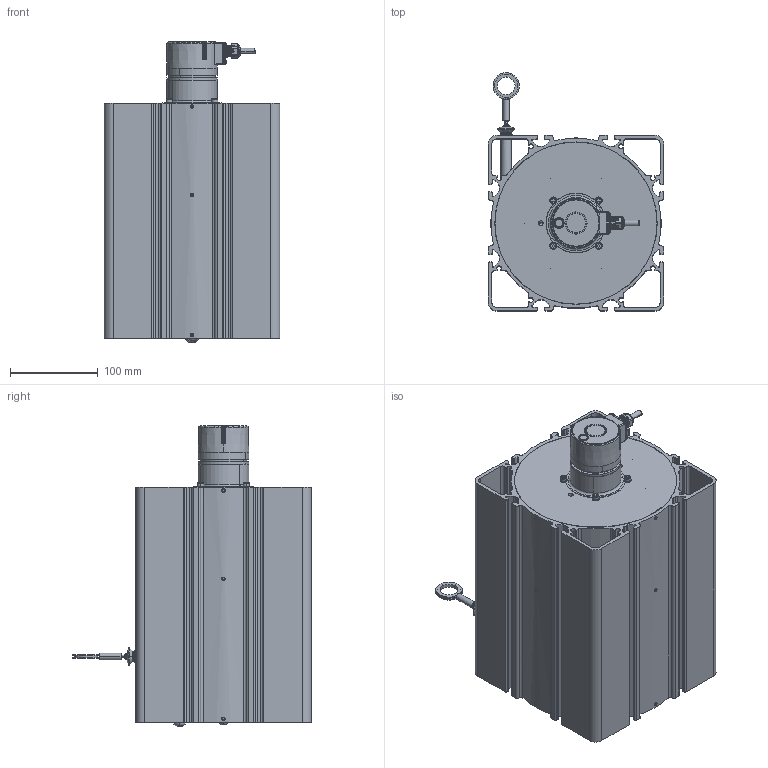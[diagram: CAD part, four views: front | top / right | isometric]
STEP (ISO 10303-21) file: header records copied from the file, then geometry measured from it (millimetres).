
FILE_DESCRIPTION((''),'2;1');
FILE_NAME('WDS-30000-P200-CR-TTL_02_ASM','2024-05-28T14:27:20',('15000597'),(''),'CREO PARAMETRIC BY PTC INC, 2022164','CREO PARAMETRIC BY PTC INC, 2022164','');
FILE_SCHEMA(('AUTOMOTIVE_DESIGN { 1 0 10303 214 1 1 1 1 }'));
Products named in the file (44): TELESO_SENZORU_30M_P200_AF0; HRIDEL_MOTORU_30-40M_P200_AF0; BOCNICE_VNEJSI_P200_AF0; LOZISKO_6000_10X26X8_AF1; PREDNI_STENA_P200_DIRA_S_POJIST_AF0; SROUB_ISO7380_COC_HEX_C_M5X10_AF0; TRUBKA_PRUCHODKY_P200_AF0; PRUCHODKA_P200; GUMOVY_VLNOVEC; STIRATKO_LANKO_FORMA_0I8; DUTY_NYT_A_3X10; GP_7I5X2I0X25_EXT_EPDM60; LANKO_7X7_0I63_0I8_AF0; OKO_LANKA_TRE; CU_HULSE_2X1I4X5_AF0; SPOJKA_GS5_PR6_2I1_AF0; KOLIK_PRUZNY_2X8_AF0; SROUB_ISO4026_STAV_HEX_M4X4_AF0; SROUB_ISO4026_STAV_HEX_M4X4_AF1; SROUB_ISO4026_STAV_HEX_M4X4_AF2; SROUB_ISO4026_STAV_HEX_M4X4_AF3; SROUB_ISO4026_STAV_HEX_M4X4_AF4; SROUB_ISO4026_STAV_HEX_M4X4_AF5; SROUB_ISO4026_STAV_HEX_M4X4_AF6; SROUB_ISO4026_STAV_HEX_M4X4_AF7; SROUB_ISO4026_STAV_HEX_M4X4_AF8; SROUB_ISO4026_STAV_HEX_M4X4_AF9; SROUB_ISO4026_STAV_HEX_M4X4_AF10; SROUB_ISO4026_STAV_HEX_M4X4_AF11; PRIRUBA_SYNCHRO_P96_P200_AF0; PODLOZKA_M4_VEJIROVA_AF3; PODLOZKA_M4_VEJIROVA_AF4; PODLOZKA_M4_VEJIROVA_AF5; PODLOZKA_M4_VEJIROVA_AF6; SROUB_ISO4762_VALC_HEX_M4X6_AF0; SROUB_ISO4762_VALC_HEX_M4X6_AF1; SROUB_ISO4762_VALC_HEX_M4X6_AF2; SROUB_ISO4762_VALC_HEX_M4X6_AF3; SPOJKA_KRIZ_AF0; SPOJKA_GS5_PR6_AF0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
Assembly tree (43 placements, depth 2):
  WDS-30000-P200-CR-TTL_02_ASM
    TELESO_SENZORU_30M_P200_AF0
    HRIDEL_MOTORU_30-40M_P200_AF0
    BOCNICE_VNEJSI_P200_AF0
    LOZISKO_6000_10X26X8_AF1
    PREDNI_STENA_P200_DIRA_S_POJIST_AF0
    SROUB_ISO7380_COC_HEX_C_M5X10_AF0
    TRUBKA_PRUCHODKY_P200_AF0
    PRUCHODKA_P200
    GUMOVY_VLNOVEC
    STIRATKO_LANKO_FORMA_0I8
    DUTY_NYT_A_3X10
    GP_7I5X2I0X25_EXT_EPDM60
    LANKO_7X7_0I63_0I8_AF0
    OKO_LANKA_TRE
    CU_HULSE_2X1I4X5_AF0
    SPOJKA_GS5_PR6_2I1_AF0
    KOLIK_PRUZNY_2X8_AF0
    SROUB_ISO4026_STAV_HEX_M4X4_AF0
    SROUB_ISO4026_STAV_HEX_M4X4_AF1
    SROUB_ISO4026_STAV_HEX_M4X4_AF2
    SROUB_ISO4026_STAV_HEX_M4X4_AF3
    SROUB_ISO4026_STAV_HEX_M4X4_AF4
    SROUB_ISO4026_STAV_HEX_M4X4_AF5
    SROUB_ISO4026_STAV_HEX_M4X4_AF6
    SROUB_ISO4026_STAV_HEX_M4X4_AF7
    SROUB_ISO4026_STAV_HEX_M4X4_AF8
    SROUB_ISO4026_STAV_HEX_M4X4_AF9
    SROUB_ISO4026_STAV_HEX_M4X4_AF10
    SROUB_ISO4026_STAV_HEX_M4X4_AF11
    PRIRUBA_SYNCHRO_P96_P200_AF0
    PODLOZKA_M4_VEJIROVA_AF3
    PODLOZKA_M4_VEJIROVA_AF4
    PODLOZKA_M4_VEJIROVA_AF5
    PODLOZKA_M4_VEJIROVA_AF6
    SROUB_ISO4762_VALC_HEX_M4X6_AF0
    SROUB_ISO4762_VALC_HEX_M4X6_AF1
    SROUB_ISO4762_VALC_HEX_M4X6_AF2
    SROUB_ISO4762_VALC_HEX_M4X6_AF3
    SPOJKA_KRIZ_AF0
    SPOJKA_GS5_PR6_AF0
    SROUB_ISO4029_STAV_HEX_M3X3_AF0
    SROUB_ISO7380_COC_HEX_M8X8_AF0
    BAU_SYNCHRO_TTL_EIL580-SY06I5RE
Bounding box: 200 x 271.7 x 342.1 mm (x, y, z)
Volume: 1655755.2 mm3; surface area: 808160.1 mm2
Topology: 34 solids, 73 shells, 1754 faces, 4719 edges, 3048 vertices
Faces by surface type: plane 650, cylinder 638, cone 173, bspline 136, torus 108, extrusion 18, revolution 16, sphere 15
Entity records: 93878 total; most frequent: CARTESIAN_POINT 33249, ORIENTED_EDGE 9158, DIRECTION 8865, EDGE_CURVE 4673, PRESENTATION_STYLE_ASSIGNMENT 3829, STYLED_ITEM 3829, AXIS2_PLACEMENT_3D 3468, VERTEX_POINT 3048
